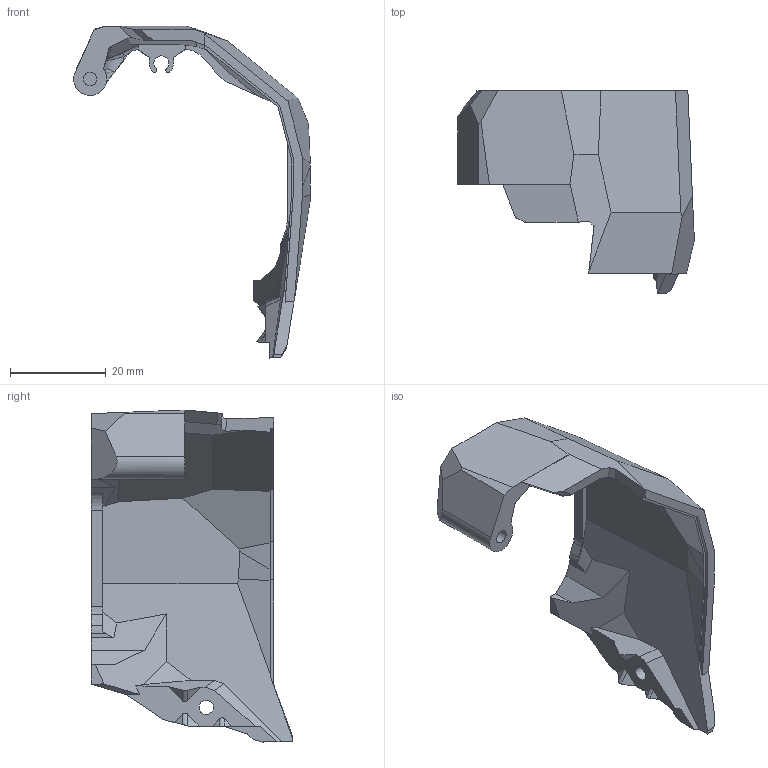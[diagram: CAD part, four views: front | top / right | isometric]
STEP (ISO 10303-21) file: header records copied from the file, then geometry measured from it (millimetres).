
FILE_DESCRIPTION(/* description */ (''),/* implementation_level */ '2;1');
FILE_NAME(/* name */ 'CW2_PCB_Thermistor_Cover.step',/* time_stamp */ '2023-07-26T23:19:10-05:00',/* author */ (''),/* organization */ (''),/* preprocessor_version */ 'ST-DEVELOPER v19.2',/* originating_system */ 'Autodesk Translation Framework v12.6.0.85',/* authorisation */ '');
FILE_SCHEMA (('AUTOMOTIVE_DESIGN { 1 0 10303 214 3 1 1 }'));
Length unit declared in the file: millimetre
Products named in the file (2): (Unsaved); Cable_Cover_For_PCB
Assembly tree (1 placements, depth 2):
  (Unsaved)
    Cable_Cover_For_PCB
Bounding box: 49.47 x 42.2 x 69.38 mm (x, y, z)
Volume: 9863.6 mm3; surface area: 8356.2 mm2
Topology: 1 solids, 2 shells, 131 faces, 375 edges, 249 vertices
Faces by surface type: plane 104, cylinder 25, bspline 2
Full cylindrical faces by diameter (mm): 2.8 x1, 3 x1
Entity records: 4671 total; most frequent: CARTESIAN_POINT 1157, ORIENTED_EDGE 750, DIRECTION 679, EDGE_CURVE 375, LINE 317, VECTOR 317, VERTEX_POINT 249, AXIS2_PLACEMENT_3D 181
